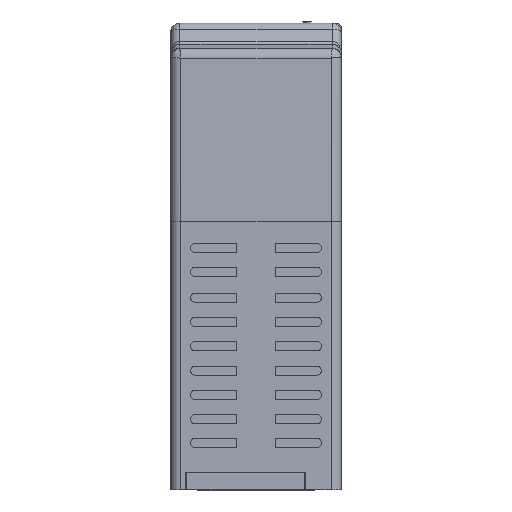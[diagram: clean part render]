
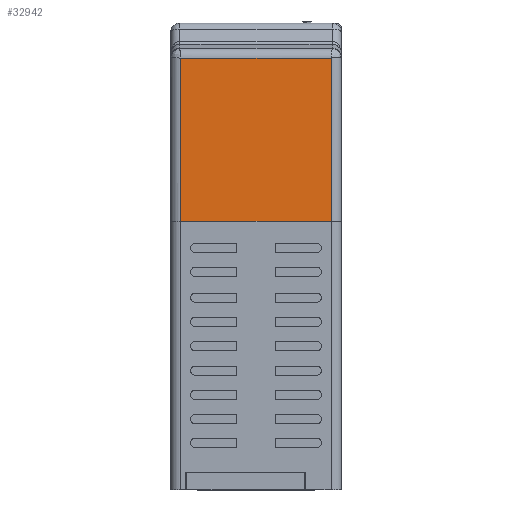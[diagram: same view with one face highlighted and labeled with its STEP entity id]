
A CAD part, front view. The second image highlights one B-rep face of the part: STEP entity #32942.
In plain terms, the highlighted planar face has unit normal (0, -1, 0.014).
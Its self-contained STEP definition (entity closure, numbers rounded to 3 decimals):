
#720 = CARTESIAN_POINT ( 'NONE',  ( -13.2, -47.1, 28.648 ) ) ;
#2263 = ORIENTED_EDGE ( 'NONE', *, *, #43811, .T. ) ;
#2557 = CARTESIAN_POINT ( 'NONE',  ( 13.2, -47.1, 28.648 ) ) ;
#2851 = CARTESIAN_POINT ( 'NONE',  ( 13.2, -47.1, 28.648 ) ) ;
#3825 = LINE ( 'NONE', #10773, #32277 ) ;
#4081 = LINE ( 'NONE', #720, #35137 ) ;
#4206 = DIRECTION ( 'NONE',  ( 0., 1., -0.014 ) ) ;
#6590 = LINE ( 'NONE', #10165, #43939 ) ;
#8655 = ORIENTED_EDGE ( 'NONE', *, *, #27887, .F. ) ;
#10165 = CARTESIAN_POINT ( 'NONE',  ( 13.2, -47.1, 28.648 ) ) ;
#10773 = CARTESIAN_POINT ( 'NONE',  ( 13.2, -47.5, 0. ) ) ;
#13201 = PLANE ( 'NONE',  #43860 ) ;
#13415 = VECTOR ( 'NONE', #36954, 1000. ) ;
#15181 = VERTEX_POINT ( 'NONE', #2557 ) ;
#17261 = EDGE_CURVE ( 'NONE', #39017, #19416, #3825, .T. ) ;
#19416 = VERTEX_POINT ( 'NONE', #33226 ) ;
#20086 = EDGE_LOOP ( 'NONE', ( #24760, #2263, #25480, #8655 ) ) ;
#23568 = EDGE_CURVE ( 'NONE', #15181, #40107, #6590, .T. ) ;
#24459 = DIRECTION ( 'NONE',  ( -1., 0., 0. ) ) ;
#24760 = ORIENTED_EDGE ( 'NONE', *, *, #23568, .T. ) ;
#25480 = ORIENTED_EDGE ( 'NONE', *, *, #17261, .F. ) ;
#26450 = FACE_OUTER_BOUND ( 'NONE', #20086, .T. ) ;
#26854 = LINE ( 'NONE', #2851, #13415 ) ;
#27094 = CARTESIAN_POINT ( 'NONE',  ( -13.2, -47.1, 28.648 ) ) ;
#27887 = EDGE_CURVE ( 'NONE', #15181, #39017, #26854, .T. ) ;
#28303 = DIRECTION ( 'NONE',  ( 0., -0.014, -1. ) ) ;
#30924 = DIRECTION ( 'NONE',  ( -1., 0., 0. ) ) ;
#32277 = VECTOR ( 'NONE', #24459, 1000. ) ;
#32942 = ADVANCED_FACE ( 'NONE', ( #26450 ), #13201, .F. ) ;
#33226 = CARTESIAN_POINT ( 'NONE',  ( -13.2, -47.5, 0. ) ) ;
#35137 = VECTOR ( 'NONE', #28303, 1000. ) ;
#36954 = DIRECTION ( 'NONE',  ( 0., -0.014, -1. ) ) ;
#37220 = CARTESIAN_POINT ( 'NONE',  ( 16.301, -47.5, 0. ) ) ;
#37770 = DIRECTION ( 'NONE',  ( -1., 0., 0. ) ) ;
#39017 = VERTEX_POINT ( 'NONE', #39774 ) ;
#39774 = CARTESIAN_POINT ( 'NONE',  ( 13.2, -47.5, 0. ) ) ;
#40107 = VERTEX_POINT ( 'NONE', #27094 ) ;
#43811 = EDGE_CURVE ( 'NONE', #40107, #19416, #4081, .T. ) ;
#43860 = AXIS2_PLACEMENT_3D ( 'NONE', #37220, #4206, #30924 ) ;
#43939 = VECTOR ( 'NONE', #37770, 1000. ) ;
